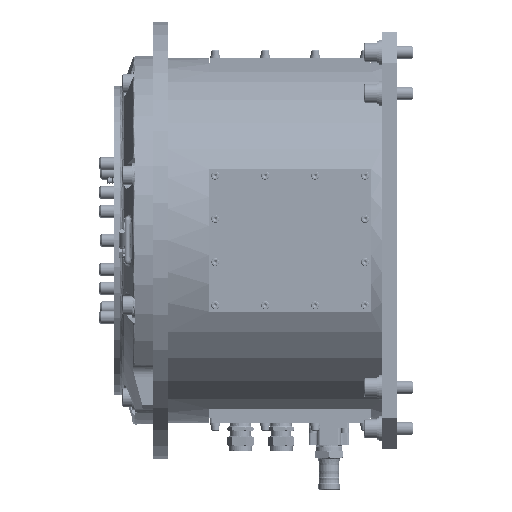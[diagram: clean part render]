
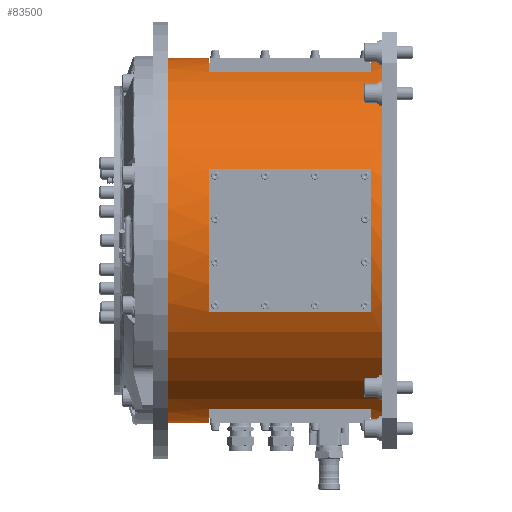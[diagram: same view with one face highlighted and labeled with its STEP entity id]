
A CAD part, left-side view. The second image highlights one B-rep face of the part: STEP entity #83500.
In plain terms, the highlighted cylindrical face has radius 228.6 mm (diameter 457.2 mm), a partial arc.
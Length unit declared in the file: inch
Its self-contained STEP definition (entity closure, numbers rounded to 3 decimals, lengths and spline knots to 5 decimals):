
#22 = VERTEX_POINT ( 'NONE', #28288 ) ;
#46 = FACE_OUTER_BOUND ( 'NONE', #10044, .T. ) ;
#1513 = ORIENTED_EDGE ( 'NONE', *, *, #23891, .T. ) ;
#1810 = LINE ( 'NONE', #69124, #50130 ) ;
#2503 = ORIENTED_EDGE ( 'NONE', *, *, #9241, .T. ) ;
#5063 = DIRECTION ( 'NONE',  ( 0., -1., 0. ) ) ;
#7104 = ORIENTED_EDGE ( 'NONE', *, *, #91490, .T. ) ;
#9241 = EDGE_CURVE ( 'NONE', #90427, #158802, #173598, .T. ) ;
#10044 = EDGE_LOOP ( 'NONE', ( #214369, #30676, #146037, #7104, #145173, #2503, #91687, #90391, #90417, #1513, #18412, #216995 ) ) ;
#10708 = CARTESIAN_POINT ( 'NONE',  ( 0., 0.5, 9. ) ) ;
#11944 = AXIS2_PLACEMENT_3D ( 'NONE', #56835, #5063, #89993 ) ;
#16011 = DIRECTION ( 'NONE',  ( 0., 0., -1. ) ) ;
#16360 = LINE ( 'NONE', #218054, #55332 ) ;
#18412 = ORIENTED_EDGE ( 'NONE', *, *, #159638, .T. ) ;
#23583 = CARTESIAN_POINT ( 'NONE',  ( -8.29156, 8.5, -3.5 ) ) ;
#23891 = EDGE_CURVE ( 'NONE', #95513, #213996, #163367, .T. ) ;
#25498 = VERTEX_POINT ( 'NONE', #111329 ) ;
#26224 = CARTESIAN_POINT ( 'NONE',  ( -8.29156, 10.5, -3.5 ) ) ;
#27308 = DIRECTION ( 'NONE',  ( 0., 0., -1. ) ) ;
#28258 = CARTESIAN_POINT ( 'NONE',  ( 0., 8.5, 0. ) ) ;
#28288 = CARTESIAN_POINT ( 'NONE',  ( -3.5, 8.5, 8.29156 ) ) ;
#29633 = EDGE_LOOP ( 'NONE', ( #190222, #188000, #55393, #207009 ) ) ;
#30676 = ORIENTED_EDGE ( 'NONE', *, *, #75561, .T. ) ;
#33709 = CARTESIAN_POINT ( 'NONE',  ( 0., 0., 0. ) ) ;
#33783 = AXIS2_PLACEMENT_3D ( 'NONE', #169265, #69004, #185817 ) ;
#38800 = EDGE_CURVE ( 'NONE', #205842, #85231, #171426, .T. ) ;
#39705 = DIRECTION ( 'NONE',  ( 0., 0., -1. ) ) ;
#42425 = EDGE_CURVE ( 'NONE', #85231, #137297, #99267, .T. ) ;
#44818 = DIRECTION ( 'NONE',  ( 0., 1., 0. ) ) ;
#49403 = DIRECTION ( 'NONE',  ( 0., 1., 0. ) ) ;
#50130 = VECTOR ( 'NONE', #81336, 39.37008 ) ;
#52566 = VECTOR ( 'NONE', #205585, 39.37008 ) ;
#55332 = VECTOR ( 'NONE', #49403, 39.37008 ) ;
#55393 = ORIENTED_EDGE ( 'NONE', *, *, #38800, .T. ) ;
#56835 = CARTESIAN_POINT ( 'NONE',  ( 0., 10.5, 0. ) ) ;
#58321 = CARTESIAN_POINT ( 'NONE',  ( 0., 10.5, 9. ) ) ;
#60903 = AXIS2_PLACEMENT_3D ( 'NONE', #33709, #104233, #137354 ) ;
#66023 = VERTEX_POINT ( 'NONE', #161477 ) ;
#69004 = DIRECTION ( 'NONE',  ( 0., 1., 0. ) ) ;
#69124 = CARTESIAN_POINT ( 'NONE',  ( 0., 10.5, 9. ) ) ;
#69573 = DIRECTION ( 'NONE',  ( 0., -1., 0. ) ) ;
#73294 = CARTESIAN_POINT ( 'NONE',  ( -8.29156, 10.5, 3.5 ) ) ;
#75394 = EDGE_CURVE ( 'NONE', #137297, #131929, #176133, .T. ) ;
#75561 = EDGE_CURVE ( 'NONE', #159526, #85643, #86006, .T. ) ;
#78070 = AXIS2_PLACEMENT_3D ( 'NONE', #28258, #44818, #91160 ) ;
#78399 = CARTESIAN_POINT ( 'NONE',  ( -8.29156, 0.5, 3.5 ) ) ;
#78475 = CARTESIAN_POINT ( 'NONE',  ( -3.5, 0.5, -8.29156 ) ) ;
#81336 = DIRECTION ( 'NONE',  ( 0., -1., 0. ) ) ;
#83500 = ADVANCED_FACE ( 'NONE', ( #46, #168745 ), #83964, .T. ) ;
#83650 = CARTESIAN_POINT ( 'NONE',  ( 0., 10.5, 9. ) ) ;
#83964 = CYLINDRICAL_SURFACE ( 'NONE', #216318, 9. ) ;
#85194 = VECTOR ( 'NONE', #218061, 39.37008 ) ;
#85231 = VERTEX_POINT ( 'NONE', #78399 ) ;
#85643 = VERTEX_POINT ( 'NONE', #100093 ) ;
#86006 = CIRCLE ( 'NONE', #11944, 9. ) ;
#88588 = CARTESIAN_POINT ( 'NONE',  ( 0., 10.5, -9. ) ) ;
#89993 = DIRECTION ( 'NONE',  ( 0., 0., -1. ) ) ;
#90391 = ORIENTED_EDGE ( 'NONE', *, *, #134980, .T. ) ;
#90417 = ORIENTED_EDGE ( 'NONE', *, *, #126147, .F. ) ;
#90427 = VERTEX_POINT ( 'NONE', #78475 ) ;
#91160 = DIRECTION ( 'NONE',  ( 0., 0., -1. ) ) ;
#91490 = EDGE_CURVE ( 'NONE', #157587, #66023, #186443, .T. ) ;
#91687 = ORIENTED_EDGE ( 'NONE', *, *, #205448, .T. ) ;
#92573 = CIRCLE ( 'NONE', #60903, 9. ) ;
#92727 = CARTESIAN_POINT ( 'NONE',  ( 0., 0.5, 0. ) ) ;
#94569 = DIRECTION ( 'NONE',  ( 0., 1., 0. ) ) ;
#95513 = VERTEX_POINT ( 'NONE', #10708 ) ;
#96262 = AXIS2_PLACEMENT_3D ( 'NONE', #180302, #166981, #16011 ) ;
#96722 = VERTEX_POINT ( 'NONE', #183567 ) ;
#99267 = CIRCLE ( 'NONE', #102778, 9. ) ;
#100093 = CARTESIAN_POINT ( 'NONE',  ( 0., 10.5, -9. ) ) ;
#102778 = AXIS2_PLACEMENT_3D ( 'NONE', #167752, #183224, #117099 ) ;
#104233 = DIRECTION ( 'NONE',  ( 0., 1., 0. ) ) ;
#108302 = CARTESIAN_POINT ( 'NONE',  ( 0., 10.5, -9. ) ) ;
#109411 = LINE ( 'NONE', #88588, #202413 ) ;
#111329 = CARTESIAN_POINT ( 'NONE',  ( 0., 0., 9. ) ) ;
#111443 = DIRECTION ( 'NONE',  ( 0., 0., -1. ) ) ;
#113147 = CARTESIAN_POINT ( 'NONE',  ( 0., 8.5, -9. ) ) ;
#117099 = DIRECTION ( 'NONE',  ( 0., 0., -1. ) ) ;
#120065 = EDGE_CURVE ( 'NONE', #131929, #205842, #128862, .T. ) ;
#123843 = CIRCLE ( 'NONE', #78070, 9. ) ;
#126147 = EDGE_CURVE ( 'NONE', #95513, #25498, #1810, .T. ) ;
#126573 = AXIS2_PLACEMENT_3D ( 'NONE', #178288, #94569, #27308 ) ;
#128862 = CIRCLE ( 'NONE', #33783, 9. ) ;
#131929 = VERTEX_POINT ( 'NONE', #23583 ) ;
#133620 = VECTOR ( 'NONE', #176590, 39.37008 ) ;
#134980 = EDGE_CURVE ( 'NONE', #96722, #25498, #92573, .T. ) ;
#137297 = VERTEX_POINT ( 'NONE', #161212 ) ;
#137354 = DIRECTION ( 'NONE',  ( 0., 0., -1. ) ) ;
#137931 = CARTESIAN_POINT ( 'NONE',  ( 0., 10.5, 0. ) ) ;
#145173 = ORIENTED_EDGE ( 'NONE', *, *, #176822, .T. ) ;
#145639 = DIRECTION ( 'NONE',  ( 0., -1., 0. ) ) ;
#145718 = DIRECTION ( 'NONE',  ( 0., -1., 0. ) ) ;
#146037 = ORIENTED_EDGE ( 'NONE', *, *, #212521, .T. ) ;
#150041 = CARTESIAN_POINT ( 'NONE',  ( -3.5, 10.5, -8.29156 ) ) ;
#152529 = EDGE_CURVE ( 'NONE', #159526, #163088, #204792, .T. ) ;
#154923 = CARTESIAN_POINT ( 'NONE',  ( 0., 0.5, -9. ) ) ;
#157587 = VERTEX_POINT ( 'NONE', #113147 ) ;
#158802 = VERTEX_POINT ( 'NONE', #154923 ) ;
#159526 = VERTEX_POINT ( 'NONE', #58321 ) ;
#159638 = EDGE_CURVE ( 'NONE', #213996, #22, #16360, .T. ) ;
#161212 = CARTESIAN_POINT ( 'NONE',  ( -8.29156, 0.5, -3.5 ) ) ;
#161477 = CARTESIAN_POINT ( 'NONE',  ( -3.5, 8.5, -8.29156 ) ) ;
#163088 = VERTEX_POINT ( 'NONE', #172739 ) ;
#163230 = LINE ( 'NONE', #150041, #191305 ) ;
#163367 = CIRCLE ( 'NONE', #177529, 9. ) ;
#166981 = DIRECTION ( 'NONE',  ( 0., -1., 0. ) ) ;
#167752 = CARTESIAN_POINT ( 'NONE',  ( 0., 0.5, 0. ) ) ;
#168502 = EDGE_CURVE ( 'NONE', #22, #163088, #123843, .T. ) ;
#168745 = FACE_BOUND ( 'NONE', #29633, .T. ) ;
#169265 = CARTESIAN_POINT ( 'NONE',  ( 0., 8.5, 0. ) ) ;
#171426 = LINE ( 'NONE', #73294, #52566 ) ;
#172739 = CARTESIAN_POINT ( 'NONE',  ( 0., 8.5, 9. ) ) ;
#173598 = CIRCLE ( 'NONE', #96262, 9. ) ;
#174481 = DIRECTION ( 'NONE',  ( 0., -1., 0. ) ) ;
#176133 = LINE ( 'NONE', #26224, #212597 ) ;
#176590 = DIRECTION ( 'NONE',  ( 0., -1., 0. ) ) ;
#176822 = EDGE_CURVE ( 'NONE', #66023, #90427, #163230, .T. ) ;
#176829 = CARTESIAN_POINT ( 'NONE',  ( -3.5, 0.5, 8.29156 ) ) ;
#177529 = AXIS2_PLACEMENT_3D ( 'NONE', #92727, #145639, #111443 ) ;
#177681 = LINE ( 'NONE', #108302, #133620 ) ;
#178288 = CARTESIAN_POINT ( 'NONE',  ( 0., 8.5, 0. ) ) ;
#180302 = CARTESIAN_POINT ( 'NONE',  ( 0., 0.5, 0. ) ) ;
#183224 = DIRECTION ( 'NONE',  ( 0., -1., 0. ) ) ;
#183567 = CARTESIAN_POINT ( 'NONE',  ( 0., 0., -9. ) ) ;
#185817 = DIRECTION ( 'NONE',  ( 0., 0., -1. ) ) ;
#186443 = CIRCLE ( 'NONE', #126573, 9. ) ;
#188000 = ORIENTED_EDGE ( 'NONE', *, *, #120065, .T. ) ;
#190222 = ORIENTED_EDGE ( 'NONE', *, *, #75394, .T. ) ;
#191305 = VECTOR ( 'NONE', #145718, 39.37008 ) ;
#195948 = DIRECTION ( 'NONE',  ( 0., 1., 0. ) ) ;
#202413 = VECTOR ( 'NONE', #174481, 39.37008 ) ;
#204792 = LINE ( 'NONE', #83650, #85194 ) ;
#205448 = EDGE_CURVE ( 'NONE', #158802, #96722, #177681, .T. ) ;
#205585 = DIRECTION ( 'NONE',  ( 0., -1., 0. ) ) ;
#205842 = VERTEX_POINT ( 'NONE', #212430 ) ;
#207009 = ORIENTED_EDGE ( 'NONE', *, *, #42425, .T. ) ;
#212430 = CARTESIAN_POINT ( 'NONE',  ( -8.29156, 8.5, 3.5 ) ) ;
#212521 = EDGE_CURVE ( 'NONE', #85643, #157587, #109411, .T. ) ;
#212597 = VECTOR ( 'NONE', #195948, 39.37008 ) ;
#213996 = VERTEX_POINT ( 'NONE', #176829 ) ;
#214369 = ORIENTED_EDGE ( 'NONE', *, *, #152529, .F. ) ;
#216318 = AXIS2_PLACEMENT_3D ( 'NONE', #137931, #69573, #39705 ) ;
#216995 = ORIENTED_EDGE ( 'NONE', *, *, #168502, .T. ) ;
#218054 = CARTESIAN_POINT ( 'NONE',  ( -3.5, 10.5, 8.29156 ) ) ;
#218061 = DIRECTION ( 'NONE',  ( 0., -1., 0. ) ) ;
